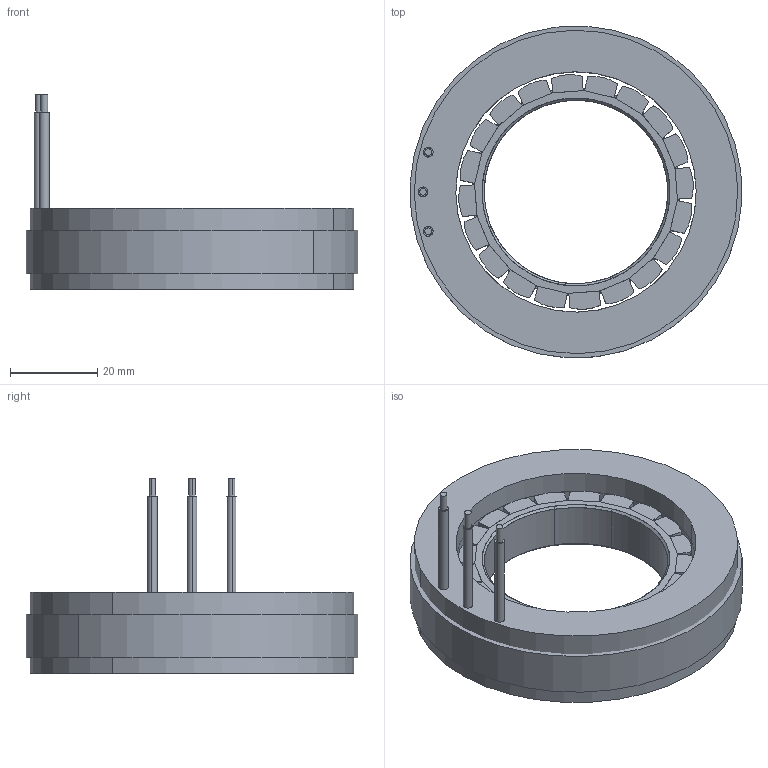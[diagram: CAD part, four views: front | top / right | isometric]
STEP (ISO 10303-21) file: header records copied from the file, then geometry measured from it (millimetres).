
FILE_DESCRIPTION (( 'STEP AP214' ), '1' );
FILE_NAME ('7618µç»ú - ÐÂ.STEP', '2025-02-18T03:47:28', ( '' ), ( '' ), 'SwSTEP 2.0', 'SolidWorks 2023', '' );
FILE_SCHEMA (( 'AUTOMOTIVE_DESIGN' ));
Length unit declared in the file: millimetre
Products named in the file (1): 7618电机 - 新
Bounding box: 75.89 x 75.89 x 44.6 mm (x, y, z)
Surface area: 25297 mm2 (no closed solid volume)
Topology: 0 solids, 28 shells, 174 faces, 1075 edges, 908 vertices
Faces by surface type: plane 96, cylinder 70, cone 8
Entity records: 10390 total; most frequent: CARTESIAN_POINT 2158, DIRECTION 1793, ORIENTED_EDGE 1366, EDGE_CURVE 1075, VERTEX_POINT 908, VECTOR 707, LINE 707, AXIS2_PLACEMENT_3D 543
